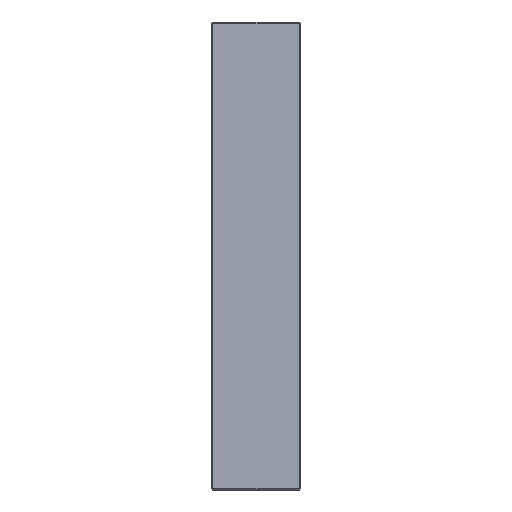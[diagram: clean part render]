
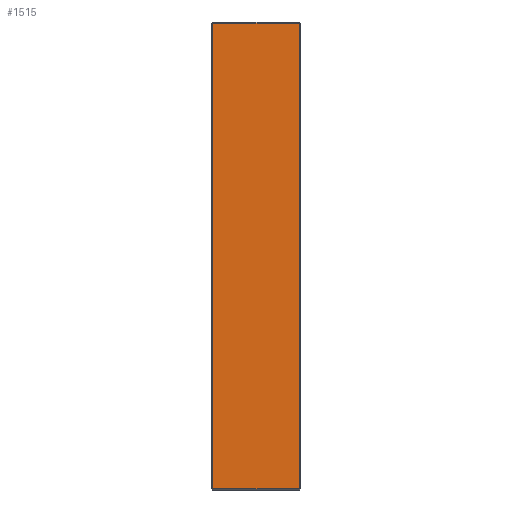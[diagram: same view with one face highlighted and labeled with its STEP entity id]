
A CAD part, left-side view. The second image highlights one B-rep face of the part: STEP entity #1515.
In plain terms, the highlighted planar face has unit normal (-1, 0, 0).
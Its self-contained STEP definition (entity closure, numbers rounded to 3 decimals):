
#133 = VERTEX_POINT ( 'NONE', #304 ) ;
#211 = VERTEX_POINT ( 'NONE', #893 ) ;
#272 = EDGE_CURVE ( 'NONE', #133, #792, #1060, .T. ) ;
#295 = EDGE_CURVE ( 'NONE', #211, #133, #934, .T. ) ;
#304 = CARTESIAN_POINT ( 'NONE',  ( -173., 1., 172. ) ) ;
#691 = DIRECTION ( 'NONE',  ( 1., 0., 0. ) ) ;
#792 = VERTEX_POINT ( 'NONE', #1400 ) ;
#893 = CARTESIAN_POINT ( 'NONE',  ( -173., 1., -172. ) ) ;
#934 = LINE ( 'NONE', #2004, #2000 ) ;
#955 = AXIS2_PLACEMENT_3D ( 'NONE', #1759, #691, #2177 ) ;
#1025 = FACE_OUTER_BOUND ( 'NONE', #1966, .T. ) ;
#1060 = LINE ( 'NONE', #2196, #2700 ) ;
#1217 = VERTEX_POINT ( 'NONE', #2558 ) ;
#1318 = VECTOR ( 'NONE', #1546, 1000. ) ;
#1400 = CARTESIAN_POINT ( 'NONE',  ( -173., 65., 172. ) ) ;
#1411 = ORIENTED_EDGE ( 'NONE', *, *, #272, .T. ) ;
#1515 = ADVANCED_FACE ( 'NONE', ( #1025 ), #2168, .F. ) ;
#1546 = DIRECTION ( 'NONE',  ( 0., 0., -1. ) ) ;
#1579 = DIRECTION ( 'NONE',  ( 0., 0., 1. ) ) ;
#1597 = LINE ( 'NONE', #1838, #2660 ) ;
#1759 = CARTESIAN_POINT ( 'NONE',  ( -173., 66., 173. ) ) ;
#1783 = ORIENTED_EDGE ( 'NONE', *, *, #295, .T. ) ;
#1838 = CARTESIAN_POINT ( 'NONE',  ( -173., 66., -172. ) ) ;
#1930 = EDGE_CURVE ( 'NONE', #792, #1217, #2451, .T. ) ;
#1966 = EDGE_LOOP ( 'NONE', ( #1411, #2129, #2572, #1783 ) ) ;
#2000 = VECTOR ( 'NONE', #1579, 1000. ) ;
#2004 = CARTESIAN_POINT ( 'NONE',  ( -173., 1., 173. ) ) ;
#2129 = ORIENTED_EDGE ( 'NONE', *, *, #1930, .T. ) ;
#2168 = PLANE ( 'NONE',  #955 ) ;
#2177 = DIRECTION ( 'NONE',  ( 0., 0., -1. ) ) ;
#2196 = CARTESIAN_POINT ( 'NONE',  ( -173., 66., 172. ) ) ;
#2277 = EDGE_CURVE ( 'NONE', #1217, #211, #1597, .T. ) ;
#2394 = CARTESIAN_POINT ( 'NONE',  ( -173., 65., 173. ) ) ;
#2451 = LINE ( 'NONE', #2394, #1318 ) ;
#2467 = DIRECTION ( 'NONE',  ( 0., -1., 0. ) ) ;
#2558 = CARTESIAN_POINT ( 'NONE',  ( -173., 65., -172. ) ) ;
#2559 = DIRECTION ( 'NONE',  ( 0., 1., 0. ) ) ;
#2572 = ORIENTED_EDGE ( 'NONE', *, *, #2277, .T. ) ;
#2660 = VECTOR ( 'NONE', #2467, 1000. ) ;
#2700 = VECTOR ( 'NONE', #2559, 1000. ) ;
